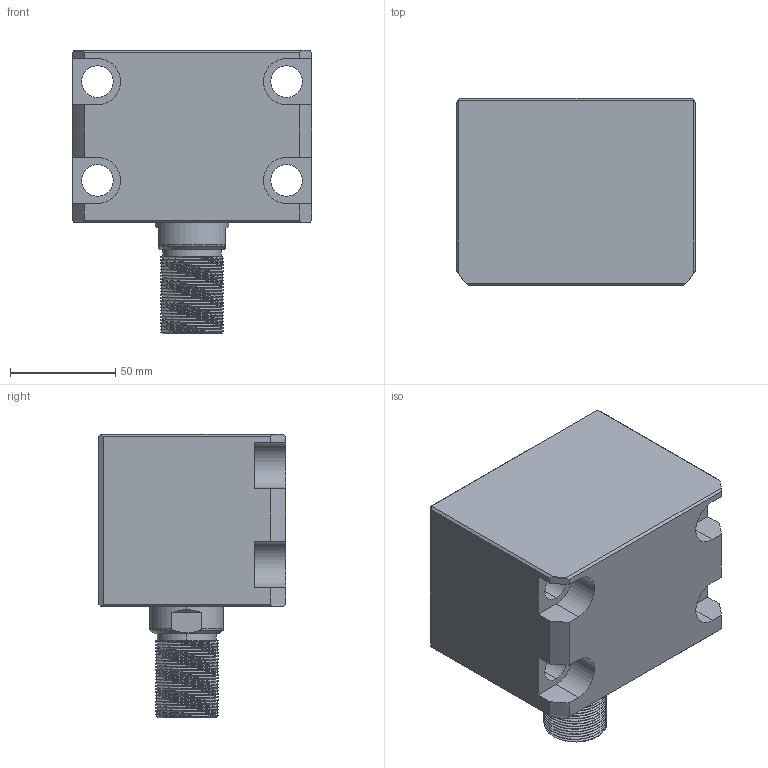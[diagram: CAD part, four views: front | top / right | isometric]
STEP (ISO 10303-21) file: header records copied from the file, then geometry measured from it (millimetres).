
FILE_DESCRIPTION (( 'STEP AP214' ), '1' );
FILE_NAME ('chtb-lam63x15w_asm.STEP', '2018-05-22T08:05:30', ( '' ), ( '' ), 'SwSTEP 2.0', 'SolidWorks 2016', '' );
FILE_SCHEMA (( 'AUTOMOTIVE_DESIGN' ));
Length unit declared in the file: millimetre
Products named in the file (4): CHTB-LAM63X15NBT; CHTB63X15WHSG; CHTB-63QG; chtb-lam63x15w_asm
Assembly tree (3 placements, depth 2):
  chtb-lam63x15w_asm
    CHTB-63QG
    CHTB63X15WHSG
    CHTB-LAM63X15NBT
Bounding box: 114 x 89 x 135 mm (x, y, z)
Volume: 756455.7 mm3; surface area: 125160.3 mm2
Topology: 3 solids, 3 shells, 223 faces, 663 edges, 451 vertices
Faces by surface type: cylinder 143, plane 50, bspline 15, cone 9, torus 6
Entity records: 23129 total; most frequent: CARTESIAN_POINT 17711, ORIENTED_EDGE 1318, DIRECTION 875, EDGE_CURVE 659, VERTEX_POINT 451, AXIS2_PLACEMENT_3D 320, EDGE_LOOP 246, VECTOR 235
